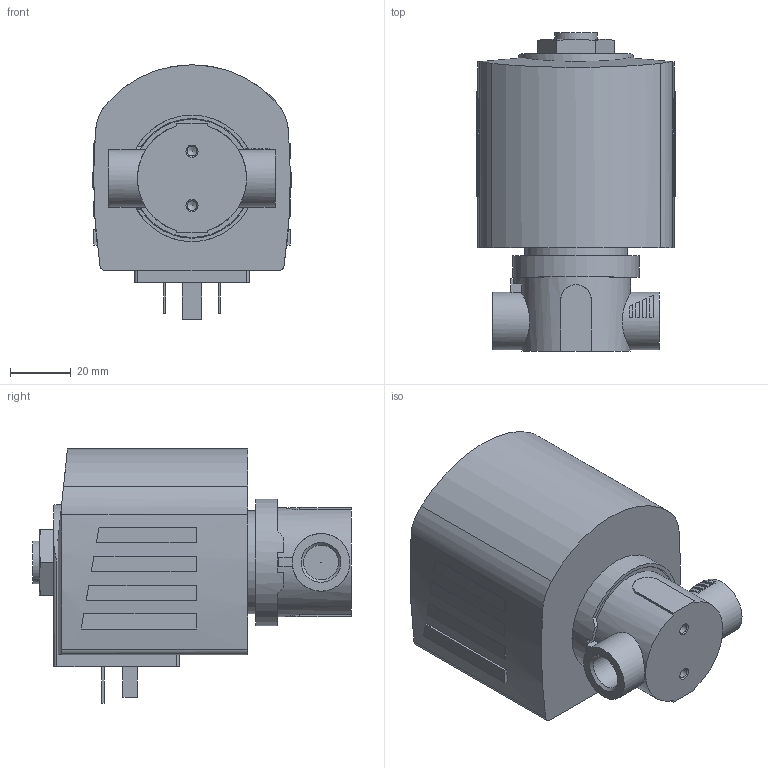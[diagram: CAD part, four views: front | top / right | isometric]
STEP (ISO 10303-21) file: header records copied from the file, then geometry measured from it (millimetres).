
FILE_DESCRIPTION(/* description */ ('STEP AP214'),/* implementation_level */ '2;1');
FILE_NAME(/* name */ '6240-386186-2_2-way_solenoid_valve__pilot-controlled',/* time_stamp */ '2024-05-10T11:45:10+02:00',/* author */ ('License CC BY-ND 4.0'),/* organization */ ('CADENAS'),/* preprocessor_version */ 'ST-DEVELOPER v19.3',/* originating_system */ 'PARTsolutions',/* authorisation */ ' ');
FILE_SCHEMA (('AUTOMOTIVE_DESIGN {1 0 10303 214 3 1 1}'));
Length unit declared in the file: millimetre
Products named in the file (3): 6240-386186-2/2-way solenoid valve, pilot-controlled; 6240-Gehaeuse-2/2-Wege-Magnetventil, vorgesteuert MX31G1/46VA; AC10ex-65SG=l-Plan-Coil
Assembly tree (2 placements, depth 2):
  6240-386186-2/2-way solenoid valve, pilot-controlled
    6240-Gehaeuse-2/2-Wege-Magnetventil, vorgesteuert MX31G1/46VA
    AC10ex-65SG=l-Plan-Coil
Bounding box: 65.62 x 105.2 x 84 mm (x, y, z)
Volume: 299294.1 mm3; surface area: 35048.8 mm2
Topology: 2 solids, 2 shells, 164 faces, 393 edges, 258 vertices
Faces by surface type: plane 117, cylinder 34, cone 13
Full cylindrical faces by diameter (mm): 0.2 x1, 2.013 x1, 3.242 x2, 11.445 x2, 14 x1, 19 x2, 34 x1, 36 x1, 39 x1, 39.5 x1, 41.8 x1
Entity records: 5859 total; most frequent: CARTESIAN_POINT 881, DIRECTION 797, ORIENTED_EDGE 726, EDGE_CURVE 363, AXIS2_PLACEMENT_3D 287, VERTEX_POINT 251, LINE 223, VECTOR 223
